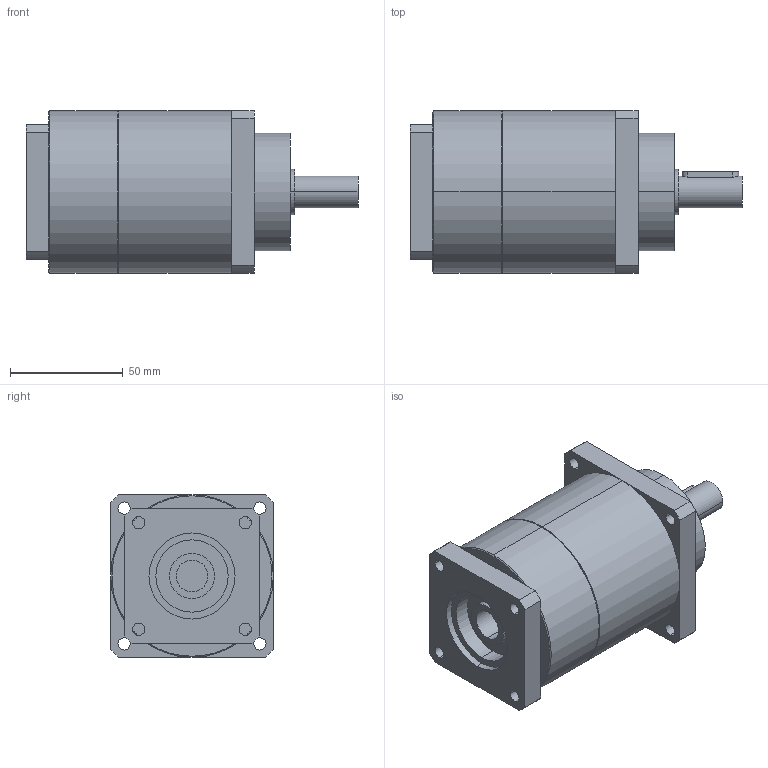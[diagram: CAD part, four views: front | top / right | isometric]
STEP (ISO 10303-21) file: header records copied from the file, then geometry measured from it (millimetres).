
FILE_DESCRIPTION(('CoCreate Modeling STEP Export'),'2;1');
FILE_NAME('GPT75_ig-9-12-16-20-25-28-35-40-50-70-100_14_B5T_14_P02.stp','2014-08-27T13:37:40',(''),(''),'CoCreate Modeling STEP processor for AP214 (Solid Model)','CoCreate Modeling 16.00C 25-Feb-2009 (C) Parametric Technology GmbH','');
FILE_SCHEMA(('AUTOMOTIVE_DESIGN { 1 0 10303 214 1 1 1 1 }'));
Length unit declared in the file: millimetre
Products named in the file (2): GPT75_ig-9-12-16-20-25-28-35-40-50-70-100_14_B5T_14_P02
Assembly tree (1 placements, depth 2):
  GPT75_ig-9-12-16-20-25-28-35-40-50-70-100_14_B5T_14_P02
    GPT75_ig-9-12-16-20-25-28-35-40-50-70-100_14_B5T_14_P02
Bounding box: 147 x 72 x 72 mm (x, y, z)
Volume: 441260.4 mm3; surface area: 42376.1 mm2
Topology: 1 solids, 1 shells, 88 faces, 226 edges, 145 vertices
Faces by surface type: cylinder 46, plane 38, cone 4
Entity records: 2676 total; most frequent: CARTESIAN_POINT 744, ORIENTED_EDGE 452, DIRECTION 334, EDGE_CURVE 226, VERTEX_POINT 145, AXIS2_PLACEMENT_3D 123, EDGE_LOOP 109, VECTOR 88
